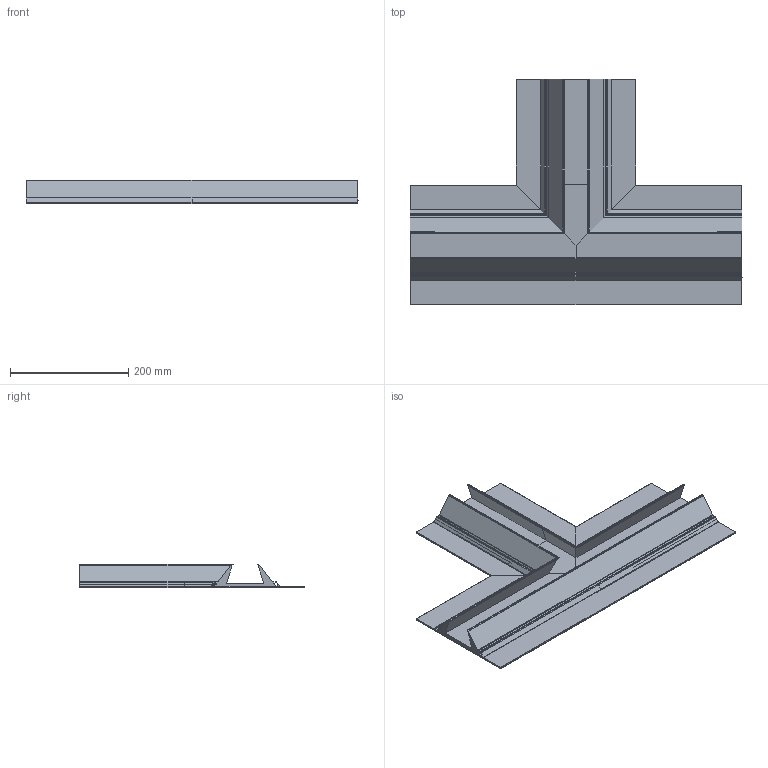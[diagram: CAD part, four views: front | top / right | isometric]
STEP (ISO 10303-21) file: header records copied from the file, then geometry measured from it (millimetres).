
FILE_DESCRIPTION(/* description */ (''),/* implementation_level */ '2;1');
FILE_NAME(/* name */ '137FHM~Y',/* time_stamp */ '2026-03-05T15:25:08+01:00',/* author */ (''),/* organization */ (''),/* preprocessor_version */ 'ST-DEVELOPER v16.5',/* originating_system */ '',/* authorisation */ '');
FILE_SCHEMA (('AUTOMOTIVE_DESIGN'));
Length unit declared in the file: millimetre
Products named in the file (1): Document
Bounding box: 562 x 382 x 40 mm (x, y, z)
Volume: 1268016.5 mm3; surface area: 624813 mm2
Topology: 1 solids, 1 shells, 284 faces, 688 edges, 399 vertices
Faces by surface type: bspline 284
Entity records: 15669 total; most frequent: CARTESIAN_POINT 7048, B_SPLINE_CURVE_WITH_KNOTS 1693, ORIENTED_EDGE 1376, PCURVE 1376, DEFINITIONAL_REPRESENTATION 1376, SURFACE_CURVE 688, EDGE_CURVE 688, VERTEX_POINT 399
